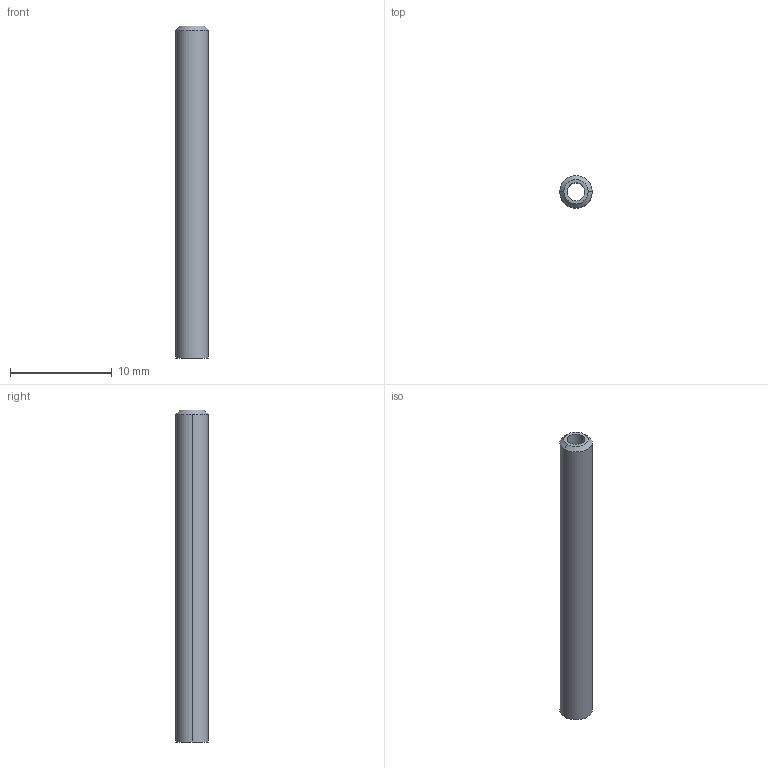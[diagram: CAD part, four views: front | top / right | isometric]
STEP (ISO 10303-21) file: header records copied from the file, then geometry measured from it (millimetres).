
FILE_DESCRIPTION (( 'STEP AP214' ), '1' );
FILE_NAME ('8457K21_Bottom Piston Through-Flow.STEP', '2023-02-21T22:42:13', ( '' ), ( '' ), 'SwSTEP 2.0', 'SolidWorks 2022', '' );
FILE_SCHEMA (( 'AUTOMOTIVE_DESIGN' ));
Length unit declared in the file: inch
Products named in the file (1): 8457K21_Bottom Piston Through-Flow
Bounding box: 3.17 x 3.17 x 32.6 mm (x, y, z)
Volume: 178.7 mm3; surface area: 513.2 mm2
Topology: 1 solids, 1 shells, 8 faces, 16 edges, 10 vertices
Faces by surface type: cylinder 4, cone 2, plane 2
Entity records: 258 total; most frequent: DIRECTION 44, CARTESIAN_POINT 35, ORIENTED_EDGE 32, AXIS2_PLACEMENT_3D 19, EDGE_CURVE 16, CIRCLE 10, VERTEX_POINT 10, EDGE_LOOP 10
